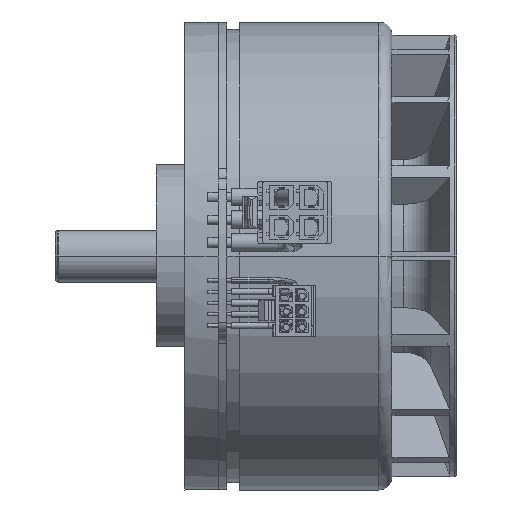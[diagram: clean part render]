
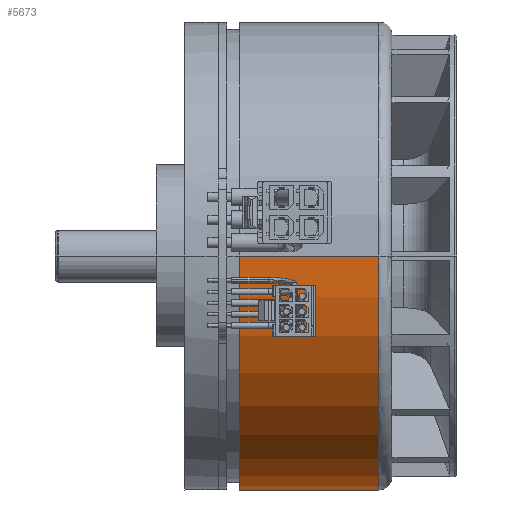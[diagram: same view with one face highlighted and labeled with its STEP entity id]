
A CAD part, front view. The second image highlights one B-rep face of the part: STEP entity #5673.
In plain terms, the highlighted cylindrical face has radius 45 mm (diameter 90 mm), a partial arc.
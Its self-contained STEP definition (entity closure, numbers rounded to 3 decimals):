
#1996=DIRECTION('',(1.,0.,0.));
#1997=VECTOR('',#1996,26.85);
#1998=CARTESIAN_POINT('',(10.55,45.,0.));
#1999=LINE('',#1998,#1997);
#2003=DIRECTION('',(-1.,0.,0.));
#2004=VECTOR('',#2003,26.85);
#2005=CARTESIAN_POINT('',(37.4,-45.,0.));
#2006=LINE('',#2005,#2004);
#2010=CARTESIAN_POINT('',(37.4,0.,0.));
#2011=DIRECTION('',(-1.,0.,0.));
#2012=DIRECTION('',(0.,1.,0.));
#2013=AXIS2_PLACEMENT_3D('',#2010,#2011,#2012);
#2026=CARTESIAN_POINT('',(10.55,0.,0.));
#2027=DIRECTION('',(-1.,0.,0.));
#2028=DIRECTION('',(0.,1.,0.));
#2029=AXIS2_PLACEMENT_3D('',#2026,#2027,#2028);
#3634=CARTESIAN_POINT('',(10.55,45.,0.));
#3635=CARTESIAN_POINT('',(37.4,45.,0.));
#3636=VERTEX_POINT('',#3634);
#3637=VERTEX_POINT('',#3635);
#3646=CARTESIAN_POINT('',(37.4,-45.,0.));
#3647=CARTESIAN_POINT('',(10.55,-45.,0.));
#3648=VERTEX_POINT('',#3646);
#3649=VERTEX_POINT('',#3647);
#5661=CARTESIAN_POINT('',(-96.091,0.,0.));
#5662=DIRECTION('',(1.,0.,0.));
#5663=DIRECTION('',(0.,-1.,0.));
#5664=AXIS2_PLACEMENT_3D('',#5661,#5662,#5663);
#5665=CYLINDRICAL_SURFACE('',#5664,45.);
#5666=ORIENTED_EDGE('',*,*,#5651,.F.);
#5668=ORIENTED_EDGE('',*,*,#5667,.T.);
#5669=ORIENTED_EDGE('',*,*,#5654,.F.);
#5670=ORIENTED_EDGE('',*,*,#4439,.F.);
#5671=EDGE_LOOP('',(#5666,#5668,#5669,#5670));
#5672=FACE_OUTER_BOUND('',#5671,.F.);
#5673=ADVANCED_FACE('',(#5672),#5665,.T.);
#2014=CIRCLE('',#2013,45.);
#2030=CIRCLE('',#2029,45.);
#4439=EDGE_CURVE('',#3637,#3648,#2014,.T.);
#5651=EDGE_CURVE('',#3636,#3637,#1999,.T.);
#5654=EDGE_CURVE('',#3648,#3649,#2006,.T.);
#5667=EDGE_CURVE('',#3636,#3649,#2030,.T.);
